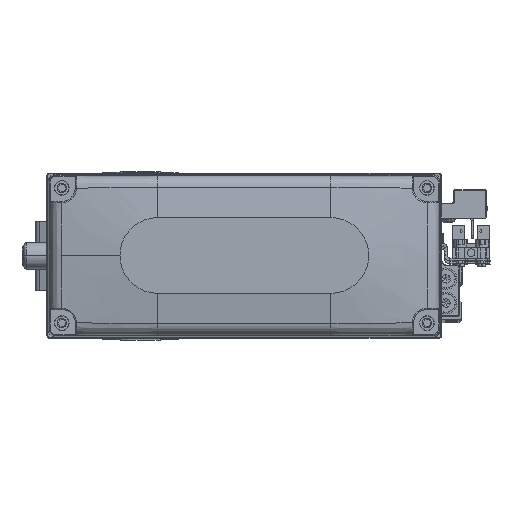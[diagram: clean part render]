
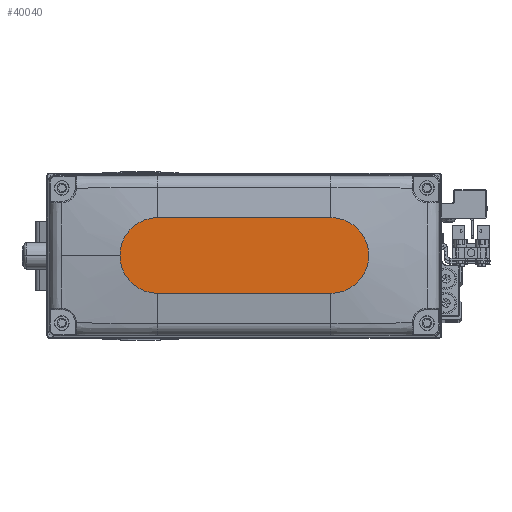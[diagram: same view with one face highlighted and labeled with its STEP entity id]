
A CAD part, top view. The second image highlights one B-rep face of the part: STEP entity #40040.
In plain terms, the highlighted planar face has unit normal (0, 0, 1).
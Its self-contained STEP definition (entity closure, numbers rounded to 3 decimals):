
#685 = EDGE_LOOP ( 'NONE', ( #39181, #13625, #22574, #11667, #29658 ) ) ;
#844 = EDGE_CURVE ( 'NONE', #41521, #3518, #37395, .T. ) ;
#2033 = VECTOR ( 'NONE', #19416, 1000. ) ;
#2655 = CIRCLE ( 'NONE', #29108, 14. ) ;
#3183 = CARTESIAN_POINT ( 'NONE',  ( -32., 14., 35. ) ) ;
#3251 = CARTESIAN_POINT ( 'NONE',  ( 46., 0., 35. ) ) ;
#3518 = VERTEX_POINT ( 'NONE', #15152 ) ;
#4989 = CARTESIAN_POINT ( 'NONE',  ( -32., -14., 35. ) ) ;
#5385 = CARTESIAN_POINT ( 'NONE',  ( 32., 0., 35. ) ) ;
#7197 = AXIS2_PLACEMENT_3D ( 'NONE', #42543, #10159, #24586 ) ;
#7841 = DIRECTION ( 'NONE',  ( 0., 0., 1. ) ) ;
#9815 = EDGE_CURVE ( 'NONE', #28456, #41521, #27560, .T. ) ;
#10159 = DIRECTION ( 'NONE',  ( 0., 0., 1. ) ) ;
#11393 = FACE_OUTER_BOUND ( 'NONE', #685, .T. ) ;
#11667 = ORIENTED_EDGE ( 'NONE', *, *, #12695, .T. ) ;
#12695 = EDGE_CURVE ( 'NONE', #3518, #42955, #2655, .T. ) ;
#12792 = CARTESIAN_POINT ( 'NONE',  ( 32., 0., 35. ) ) ;
#13625 = ORIENTED_EDGE ( 'NONE', *, *, #9815, .T. ) ;
#14157 = EDGE_CURVE ( 'NONE', #42955, #17954, #15641, .T. ) ;
#15152 = CARTESIAN_POINT ( 'NONE',  ( 32., -14., 35. ) ) ;
#15641 = CIRCLE ( 'NONE', #42071, 14. ) ;
#17593 = DIRECTION ( 'NONE',  ( -1., 0., 0. ) ) ;
#17954 = VERTEX_POINT ( 'NONE', #42710 ) ;
#19416 = DIRECTION ( 'NONE',  ( 1., 0., 0. ) ) ;
#19799 = CARTESIAN_POINT ( 'NONE',  ( -32., 14., 35. ) ) ;
#19808 = DIRECTION ( 'NONE',  ( 0., 0., 1. ) ) ;
#22249 = DIRECTION ( 'NONE',  ( 1., 0., 0. ) ) ;
#22574 = ORIENTED_EDGE ( 'NONE', *, *, #844, .T. ) ;
#24586 = DIRECTION ( 'NONE',  ( 1., 0., 0. ) ) ;
#25802 = PLANE ( 'NONE',  #35749 ) ;
#27197 = DIRECTION ( 'NONE',  ( 0., 0., 1. ) ) ;
#27560 = CIRCLE ( 'NONE', #7197, 14. ) ;
#28456 = VERTEX_POINT ( 'NONE', #19799 ) ;
#28611 = CARTESIAN_POINT ( 'NONE',  ( -32., -14., 35. ) ) ;
#29025 = EDGE_CURVE ( 'NONE', #17954, #28456, #35598, .T. ) ;
#29108 = AXIS2_PLACEMENT_3D ( 'NONE', #12792, #27197, #41633 ) ;
#29658 = ORIENTED_EDGE ( 'NONE', *, *, #14157, .T. ) ;
#33546 = VECTOR ( 'NONE', #17593, 1000. ) ;
#34250 = DIRECTION ( 'NONE',  ( 1., 0., 0. ) ) ;
#35598 = LINE ( 'NONE', #3183, #33546 ) ;
#35749 = AXIS2_PLACEMENT_3D ( 'NONE', #40241, #7841, #22249 ) ;
#37395 = LINE ( 'NONE', #4989, #2033 ) ;
#39181 = ORIENTED_EDGE ( 'NONE', *, *, #29025, .T. ) ;
#40040 = ADVANCED_FACE ( 'NONE', ( #11393 ), #25802, .T. ) ;
#40241 = CARTESIAN_POINT ( 'NONE',  ( 0., 0., 35. ) ) ;
#41521 = VERTEX_POINT ( 'NONE', #28611 ) ;
#41633 = DIRECTION ( 'NONE',  ( 1., 0., 0. ) ) ;
#42071 = AXIS2_PLACEMENT_3D ( 'NONE', #5385, #19808, #34250 ) ;
#42543 = CARTESIAN_POINT ( 'NONE',  ( -32., 0., 35. ) ) ;
#42710 = CARTESIAN_POINT ( 'NONE',  ( 32., 14., 35. ) ) ;
#42955 = VERTEX_POINT ( 'NONE', #3251 ) ;
